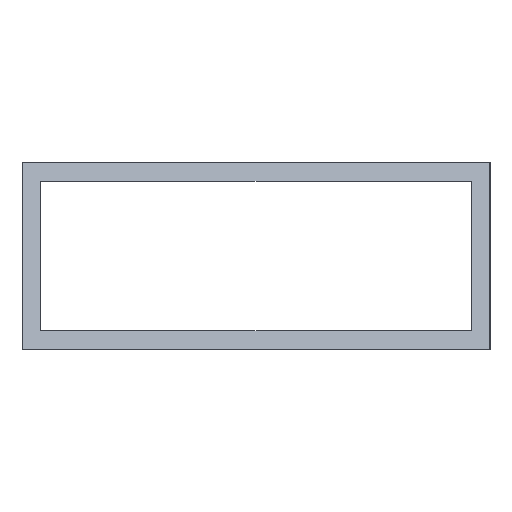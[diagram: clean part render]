
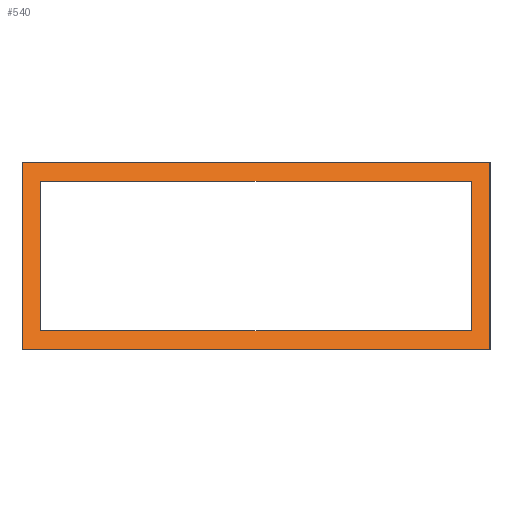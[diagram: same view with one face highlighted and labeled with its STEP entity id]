
A CAD part, left-side view. The second image highlights one B-rep face of the part: STEP entity #540.
In plain terms, the highlighted planar face has unit normal (-0.707, 0, 0.707).
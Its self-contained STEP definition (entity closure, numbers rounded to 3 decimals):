
#278=ORIENTED_EDGE('',*,*,#384,.T.);
#279=ORIENTED_EDGE('',*,*,#375,.T.);
#280=ORIENTED_EDGE('',*,*,#379,.T.);
#281=ORIENTED_EDGE('',*,*,#382,.T.);
#282=ORIENTED_EDGE('',*,*,#386,.T.);
#283=ORIENTED_EDGE('',*,*,#387,.T.);
#284=ORIENTED_EDGE('',*,*,#388,.T.);
#285=ORIENTED_EDGE('',*,*,#389,.T.);
#311=VECTOR('',#425,1.);
#315=VECTOR('',#431,1.);
#318=VECTOR('',#436,1.);
#320=VECTOR('',#440,1.);
#322=VECTOR('',#444,1.);
#323=VECTOR('',#445,1.);
#324=VECTOR('',#446,1.);
#325=VECTOR('',#447,1.);
#335=LINE('',#471,#311);
#339=LINE('',#479,#315);
#342=LINE('',#485,#318);
#344=LINE('',#488,#320);
#346=LINE('',#493,#322);
#347=LINE('',#495,#323);
#348=LINE('',#497,#324);
#349=LINE('',#498,#325);
#359=VERTEX_POINT('',#468);
#360=VERTEX_POINT('',#470);
#363=VERTEX_POINT('',#477);
#365=VERTEX_POINT('',#483);
#366=VERTEX_POINT('',#491);
#367=VERTEX_POINT('',#492);
#368=VERTEX_POINT('',#494);
#369=VERTEX_POINT('',#496);
#375=EDGE_CURVE('',#360,#359,#335,.T.);
#379=EDGE_CURVE('',#359,#363,#339,.T.);
#382=EDGE_CURVE('',#363,#365,#342,.T.);
#384=EDGE_CURVE('',#365,#360,#344,.T.);
#386=EDGE_CURVE('',#366,#367,#346,.T.);
#387=EDGE_CURVE('',#367,#368,#347,.T.);
#388=EDGE_CURVE('',#368,#369,#348,.T.);
#389=EDGE_CURVE('',#369,#366,#349,.T.);
#402=EDGE_LOOP('',(#278,#279,#280,#281));
#403=EDGE_LOOP('',(#282,#283,#284,#285));
#414=FACE_BOUND('',#402,.T.);
#415=FACE_BOUND('',#403,.T.);
#425=DIRECTION('',(20.,0.,20.));
#431=DIRECTION('',(0.,50.,0.));
#436=DIRECTION('',(-20.,0.,-20.));
#440=DIRECTION('',(0.,-50.,0.));
#442=DIRECTION('',(-0.707,0.,0.707));
#443=DIRECTION('',(0.,0.707,0.));
#444=DIRECTION('',(-16.,0.,-16.));
#445=DIRECTION('',(0.,46.,0.));
#446=DIRECTION('',(16.,0.,16.));
#447=DIRECTION('',(0.,-46.,0.));
#468=CARTESIAN_POINT('',(0.,0.,0.));
#470=CARTESIAN_POINT('',(-20.,0.,-20.));
#471=CARTESIAN_POINT('',(-20.,0.,-20.));
#477=CARTESIAN_POINT('',(0.,50.,0.));
#479=CARTESIAN_POINT('',(0.,0.,0.));
#483=CARTESIAN_POINT('',(-20.,50.,-20.));
#485=CARTESIAN_POINT('',(0.,50.,0.));
#488=CARTESIAN_POINT('',(-20.,50.,-20.));
#490=CARTESIAN_POINT('',(-14.142,50.,-14.142));
#491=CARTESIAN_POINT('',(-2.,2.,-2.));
#492=CARTESIAN_POINT('',(-18.,2.,-18.));
#493=CARTESIAN_POINT('',(-2.,2.,-2.));
#494=CARTESIAN_POINT('',(-18.,48.,-18.));
#495=CARTESIAN_POINT('',(-18.,2.,-18.));
#496=CARTESIAN_POINT('',(-2.,48.,-2.));
#497=CARTESIAN_POINT('',(-18.,48.,-18.));
#498=CARTESIAN_POINT('',(-2.,48.,-2.));
#520=AXIS2_PLACEMENT_3D('',#490,#442,#443);
#530=PLANE('',#520);
#540=ADVANCED_FACE('',(#414,#415),#530,.T.);
